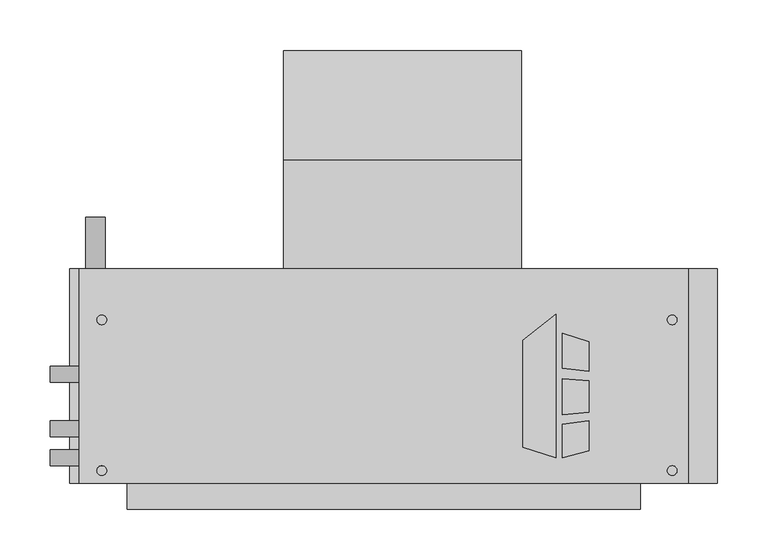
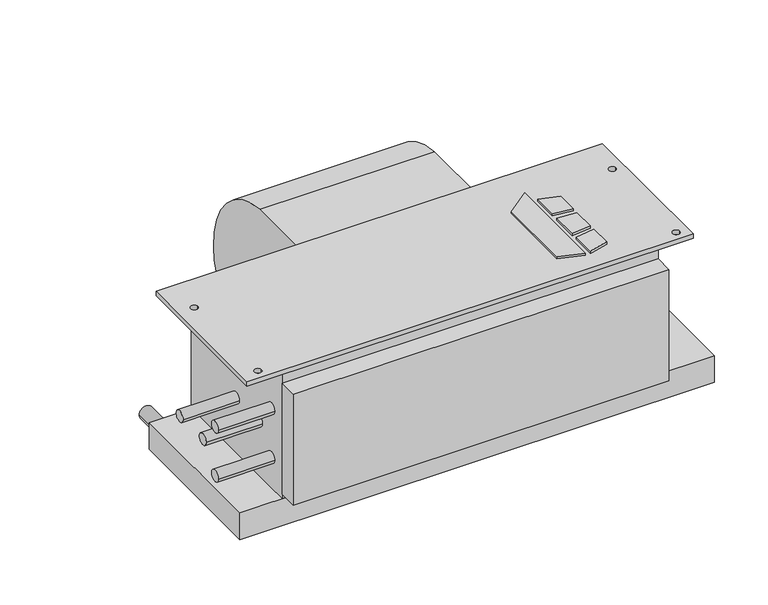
"""IFC4 building model written with IfcOpenShell, lengths in millimetres: proxy geometry, Concealed_Horizontal_Fan_Coil_Unit_-_CHY_-_IEC_-_4-Pipe_LH_2022 : Size 03 - 277v/60Hz/1Ph - 4/1 Coil."""

from ifc_helpers import new_model, si_unit, point, frame, frame_2d, origin, origin_with_axes, place, context, project, spatial, polyline, circle_curve, trimmed, segment, composite_curve, outline, extrude, source, transform, mapped, element, save


def mechanical_equipment_29567586(model_context):
    return source(origin(), model_context, "Body", "SweptSolid", [
        extrude(outline(polyline([(290.2019761, -202.5703476), (322.7602728, -177.1330184), (322.7602728, -319.0875), (290.2019761, -308.8679201), (290.2019761, -202.5703476)])), origin_with_axes(), (0.0, 0.0, 1.0), 3.175),
        extrude(outline(polyline([(329.5186058, -230.442352), (329.5186058, -195.9624379), (355.6, -204.1490115), (355.6, -233.6447446), (329.5186058, -230.442352)])), origin_with_axes(), (0.0, 0.0, 1.0), 3.175),
        extrude(outline(polyline([(355.6, -312.0990115), (329.5186058, -319.0875), (329.5186058, -285.8661996), (355.6, -282.3243564), (355.6, -312.0990115)])), origin_with_axes(), (0.0, 0.0, 1.0), 3.175),
        extrude(outline(polyline([(355.6, -242.7263277), (355.6, -273.976483), (329.5186058, -276.717748), (329.5186058, -240.8600378), (355.6, -242.7263277)])), origin_with_axes(), (0.0, 0.0, 1.0), 3.175),
        extrude(outline(composite_curve([segment(trimmed(circle_curve(frame_2d((-33.198831, -136.0299844)), 117.3559541), [point((-23.8125, -19.05))], [point((84.1375, -138.176))], False, "CARTESIAN"), True, "CONTINUOUS"), segment(trimmed(circle_curve(frame_2d((-11.5977337, -136.4250563)), 95.7512443), [point((84.1375, -138.176))], [point((-23.8125, -231.394))], False, "CARTESIAN"), True, "CONTINUOUS"), segment(trimmed(circle_curve(frame_2d((-11.6288131, -136.6666968)), 95.5076133), [point((-23.8125, -231.394))], [point((-107.1245, -138.176))], False, "CARTESIAN"), True, "CONTINUOUS"), segment(trimmed(circle_curve(frame_2d((-126.2059828, -138.4775816)), 19.0838659), [point((-107.1245, -138.176))], [point((-119.3963373, -120.65))], True, "CARTESIAN"), True, "CONTINUOUS"), segment(polyline([(-119.3963373, -120.65), (-131.7625, -120.65), (-131.7625, -19.05), (-23.8125, -19.05)]), True, "CONTINUOUS")], self_intersect=False)), frame((53.213, 0.0, 0.0), z_axis=(1.0, 0.0, 0.0), x_axis=(0.0, 1.0, 0.0)), (0.0, 0.0, 1.0), 235.712),
        extrude(outline(polyline([(454.025, -131.7625), (454.025, -344.4875), (-149.225, -344.4875), (-149.225, -131.7625), (454.025, -131.7625)]), holes=[composite_curve([segment(trimmed(circle_curve(frame_2d((-127.0, -182.5625)), 4.7625), [point((-131.7625, -182.5625))], [point((-122.2375, -182.5625))], True, "CARTESIAN"), True, "CONTINUOUS"), segment(trimmed(circle_curve(frame_2d((-127.0, -182.5625)), 4.7625), [point((-122.2375, -182.5625))], [point((-131.7625, -182.5625))], True, "CARTESIAN"), True, "CONTINUOUS")], self_intersect=False), composite_curve([segment(trimmed(circle_curve(frame_2d((-127.0, -331.7875)), 4.7625), [point((-131.7625, -331.7875))], [point((-122.2375, -331.7875))], True, "CARTESIAN"), True, "CONTINUOUS"), segment(trimmed(circle_curve(frame_2d((-127.0, -331.7875)), 4.7625), [point((-122.2375, -331.7875))], [point((-131.7625, -331.7875))], True, "CARTESIAN"), True, "CONTINUOUS")], self_intersect=False), composite_curve([segment(trimmed(circle_curve(frame_2d((438.15, -182.5625)), 4.7625), [point((433.3875, -182.5625))], [point((442.9125, -182.5625))], True, "CARTESIAN"), True, "CONTINUOUS"), segment(trimmed(circle_curve(frame_2d((438.15, -182.5625)), 4.7625), [point((442.9125, -182.5625))], [point((433.3875, -182.5625))], True, "CARTESIAN"), True, "CONTINUOUS")], self_intersect=False), composite_curve([segment(trimmed(circle_curve(frame_2d((438.15, -331.7875)), 4.7625), [point((433.3875, -331.7875))], [point((442.9125, -331.7875))], True, "CARTESIAN"), True, "CONTINUOUS"), segment(trimmed(circle_curve(frame_2d((438.15, -331.7875)), 4.7625), [point((442.9125, -331.7875))], [point((433.3875, -331.7875))], True, "CARTESIAN"), True, "CONTINUOUS")], self_intersect=False)]), frame((0.0, 0.0, -6.35), z_axis=(0.0, 0.0, 1.0), x_axis=(1.0, 0.0, 0.0)), (0.0, 0.0, 1.0), 6.35),
        extrude(outline(composite_curve([segment(trimmed(circle_curve(frame_2d((-209.55, -133.35)), 9.525), [point((-209.55, -142.875))], [point((-209.55, -123.825))], False, "CARTESIAN"), True, "CONTINUOUS"), segment(trimmed(circle_curve(frame_2d((-209.55, -133.35)), 9.525), [point((-209.55, -123.825))], [point((-209.55, -142.875))], False, "CARTESIAN"), True, "CONTINUOUS")], self_intersect=False)), frame((0.0, -131.7625, 0.0), z_axis=(0.0, 1.0, 0.0), x_axis=(0.0, 0.0, 1.0)), (0.0, 0.0, 1.0), 50.8),
        extrude(outline(polyline([(406.4, -369.8875), (-101.6, -369.8875), (-101.6, -344.4875), (406.4, -344.4875), (406.4, -369.8875)])), frame((0.0, 0.0, -177.8), z_axis=(0.0, 0.0, 1.0), x_axis=(1.0, 0.0, 0.0)), (0.0, 0.0, 1.0), 158.75),
        extrude(outline(polyline([(482.6, -131.7625), (482.6, -344.4875), (-158.75, -344.4875), (-158.75, -131.7625), (482.6, -131.7625)])), frame((0.0, 0.0, -222.25), z_axis=(0.0, 0.0, 1.0), x_axis=(1.0, 0.0, 0.0)), (0.0, 0.0, 1.0), 38.1),
        extrude(outline(composite_curve([segment(trimmed(circle_curve(frame_2d((-236.5375, -104.775)), 7.9375), [point((-228.6, -104.775))], [point((-244.475, -104.775))], False, "CARTESIAN"), True, "CONTINUOUS"), segment(trimmed(circle_curve(frame_2d((-236.5375, -104.775)), 7.9375), [point((-244.475, -104.775))], [point((-228.6, -104.775))], False, "CARTESIAN"), True, "CONTINUOUS")], self_intersect=False)), frame((-177.8, 0.0, 0.0), z_axis=(1.0, 0.0, 0.0), x_axis=(0.0, 1.0, 0.0)), (0.0, 0.0, 1.0), 76.2),
        extrude(outline(composite_curve([segment(trimmed(circle_curve(frame_2d((-290.5125, -104.775)), 7.9375), [point((-282.575, -104.775))], [point((-298.45, -104.775))], False, "CARTESIAN"), True, "CONTINUOUS"), segment(trimmed(circle_curve(frame_2d((-290.5125, -104.775)), 7.9375), [point((-298.45, -104.775))], [point((-282.575, -104.775))], False, "CARTESIAN"), True, "CONTINUOUS")], self_intersect=False)), frame((-177.8, 0.0, 0.0), z_axis=(1.0, 0.0, 0.0), x_axis=(0.0, 1.0, 0.0)), (0.0, 0.0, 1.0), 76.2),
        extrude(outline(composite_curve([segment(trimmed(circle_curve(frame_2d((-319.0875, -69.85)), 7.9375), [point((-311.15, -69.85))], [point((-327.025, -69.85))], False, "CARTESIAN"), True, "CONTINUOUS"), segment(trimmed(circle_curve(frame_2d((-319.0875, -69.85)), 7.9375), [point((-327.025, -69.85))], [point((-311.15, -69.85))], False, "CARTESIAN"), True, "CONTINUOUS")], self_intersect=False)), frame((-177.8, 0.0, 0.0), z_axis=(1.0, 0.0, 0.0), x_axis=(0.0, 1.0, 0.0)), (0.0, 0.0, 1.0), 76.2),
        extrude(outline(composite_curve([segment(trimmed(circle_curve(frame_2d((-319.0875, -139.7)), 7.9375), [point((-311.15, -139.7))], [point((-327.025, -139.7))], False, "CARTESIAN"), True, "CONTINUOUS"), segment(trimmed(circle_curve(frame_2d((-319.0875, -139.7)), 7.9375), [point((-327.025, -139.7))], [point((-311.15, -139.7))], False, "CARTESIAN"), True, "CONTINUOUS")], self_intersect=False)), frame((-177.8, 0.0, 0.0), z_axis=(1.0, 0.0, 0.0), x_axis=(0.0, 1.0, 0.0)), (0.0, 0.0, 1.0), 76.2),
        extrude(outline(polyline([(406.4, -344.4875), (-101.6, -344.4875), (-101.6, -131.7625), (406.4, -131.7625), (406.4, -344.4875)])), frame((0.0, 0.0, -184.15), z_axis=(0.0, 0.0, 1.0), x_axis=(1.0, 0.0, 0.0)), (0.0, 0.0, 1.0), 177.8),
    ])


if __name__ == "__main__":
    model = new_model("IFC4")
    model_context = context("Model", 3, world=origin())
    ifc_project = project(units=[si_unit("LENGTHUNIT", "METRE", prefix="MILLI")], contexts=[model_context])
    site = spatial("IfcSite", under=ifc_project)
    building = spatial("IfcBuilding", under=site)
    placement = place(None, origin())
    mechanical_equipment_shape = mechanical_equipment_29567586(model_context)
    element("IfcBuildingElementProxy", 1, Name="Concealed_Horizontal_Fan_Coil_Unit_-_CHY_-_IEC_-_4-Pipe_LH_2022 : Size 03 - 277v/60Hz/1Ph - 4/1 Coil", ObjectType="Concealed_Horizontal_Fan_Coil_Unit_-_CHY_-_IEC_-_4-Pipe_LH_2022 : Size 03 - 277v/60Hz/1Ph - 4/1 Coil", at=placement, inside=building, context=model_context, shape_type="MappedRepresentation", body=[
        mapped(mechanical_equipment_shape, transform((0.0, 0.0, 0.0), x_axis=(1.0, 0.0, 0.0), y_axis=(0.0, 1.0, 0.0), z_axis=(0.0, 0.0, 1.0))),
    ])
    save(model, "model.ifc")
